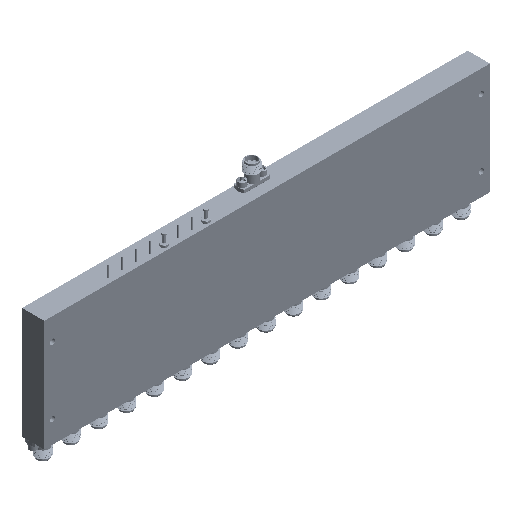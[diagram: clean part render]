
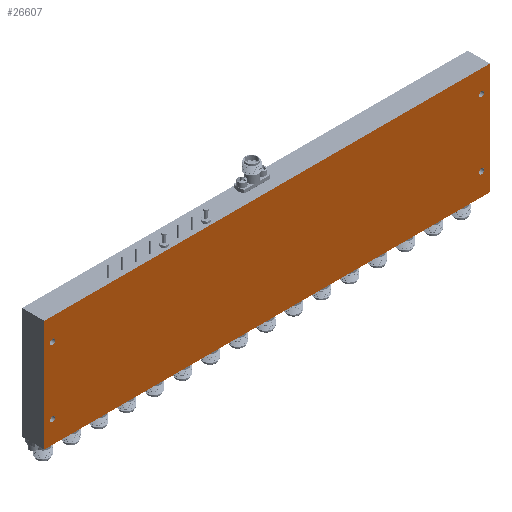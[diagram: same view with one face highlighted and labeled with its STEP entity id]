
A CAD part, isometric view. The second image highlights one B-rep face of the part: STEP entity #26607.
In plain terms, the highlighted planar face has unit normal (0, -1, 0).
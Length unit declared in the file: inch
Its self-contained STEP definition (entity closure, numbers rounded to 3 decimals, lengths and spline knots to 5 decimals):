
#1929 = ORIENTED_EDGE ( 'NONE', *, *, #43759, .F. ) ;
#2658 = DIRECTION ( 'NONE',  ( 0., 0., 1. ) ) ;
#3712 = EDGE_CURVE ( 'NONE', #134942, #134942, #106417, .T. ) ;
#4581 = EDGE_CURVE ( 'NONE', #122072, #107072, #37170, .T. ) ;
#9015 = LINE ( 'NONE', #35027, #26953 ) ;
#9782 = CIRCLE ( 'NONE', #111783, 0.04687 ) ;
#11960 = CARTESIAN_POINT ( 'NONE',  ( -4., -0.4, -1. ) ) ;
#14587 = CARTESIAN_POINT ( 'NONE',  ( -3.85, -0.4, 0.64688 ) ) ;
#15211 = EDGE_CURVE ( 'NONE', #115463, #115463, #78692, .T. ) ;
#15234 = ORIENTED_EDGE ( 'NONE', *, *, #46497, .F. ) ;
#15654 = CARTESIAN_POINT ( 'NONE',  ( 3.85, -0.4, 0.64688 ) ) ;
#19646 = AXIS2_PLACEMENT_3D ( 'NONE', #55953, #69391, #130803 ) ;
#19692 = PLANE ( 'NONE',  #51488 ) ;
#19778 = CIRCLE ( 'NONE', #68169, 0.04688 ) ;
#22486 = EDGE_LOOP ( 'NONE', ( #121211 ) ) ;
#23758 = DIRECTION ( 'NONE',  ( 0., 0., 1. ) ) ;
#26403 = CARTESIAN_POINT ( 'NONE',  ( -4., -0.4, 1. ) ) ;
#26607 = ADVANCED_FACE ( 'NONE', ( #46594, #48251, #71025, #99522, #59226 ), #19692, .F. ) ;
#26953 = VECTOR ( 'NONE', #62844, 39.37008 ) ;
#29810 = ORIENTED_EDGE ( 'NONE', *, *, #157689, .T. ) ;
#35027 = CARTESIAN_POINT ( 'NONE',  ( 4., -0.4, -1. ) ) ;
#36156 = VERTEX_POINT ( 'NONE', #135850 ) ;
#37170 = LINE ( 'NONE', #11960, #80889 ) ;
#37682 = LINE ( 'NONE', #89015, #129376 ) ;
#38606 = ORIENTED_EDGE ( 'NONE', *, *, #3712, .T. ) ;
#39170 = LINE ( 'NONE', #26403, #112762 ) ;
#42190 = CARTESIAN_POINT ( 'NONE',  ( 3.85, -0.4, 0.6 ) ) ;
#43759 = EDGE_CURVE ( 'NONE', #142644, #36156, #9015, .T. ) ;
#45961 = DIRECTION ( 'NONE',  ( 0., 1., 0. ) ) ;
#46497 = EDGE_CURVE ( 'NONE', #107072, #142644, #39170, .T. ) ;
#46594 = FACE_BOUND ( 'NONE', #117152, .T. ) ;
#48251 = FACE_BOUND ( 'NONE', #22486, .T. ) ;
#48980 = DIRECTION ( 'NONE',  ( 0., 0., 1. ) ) ;
#51488 = AXIS2_PLACEMENT_3D ( 'NONE', #116255, #152353, #23758 ) ;
#52005 = DIRECTION ( 'NONE',  ( -1., 0., 0. ) ) ;
#55953 = CARTESIAN_POINT ( 'NONE',  ( -3.85, -0.4, 0.6 ) ) ;
#59226 = FACE_OUTER_BOUND ( 'NONE', #112386, .T. ) ;
#62844 = DIRECTION ( 'NONE',  ( 0., 0., -1. ) ) ;
#66789 = CARTESIAN_POINT ( 'NONE',  ( -4., -0.4, 1. ) ) ;
#68169 = AXIS2_PLACEMENT_3D ( 'NONE', #93957, #45961, #145153 ) ;
#69391 = DIRECTION ( 'NONE',  ( 0., 1., 0. ) ) ;
#71025 = FACE_BOUND ( 'NONE', #164211, .T. ) ;
#78692 = CIRCLE ( 'NONE', #19646, 0.04687 ) ;
#80889 = VECTOR ( 'NONE', #48980, 39.37008 ) ;
#84912 = AXIS2_PLACEMENT_3D ( 'NONE', #126859, #89949, #153653 ) ;
#85383 = CARTESIAN_POINT ( 'NONE',  ( 3.85, -0.4, -0.55312 ) ) ;
#89015 = CARTESIAN_POINT ( 'NONE',  ( -4., -0.4, -1. ) ) ;
#89949 = DIRECTION ( 'NONE',  ( 0., 1., 0. ) ) ;
#93957 = CARTESIAN_POINT ( 'NONE',  ( 3.85, -0.4, -0.6 ) ) ;
#99522 = FACE_BOUND ( 'NONE', #127648, .T. ) ;
#99559 = CARTESIAN_POINT ( 'NONE',  ( 4., -0.4, 1. ) ) ;
#106417 = CIRCLE ( 'NONE', #84912, 0.04688 ) ;
#107072 = VERTEX_POINT ( 'NONE', #66789 ) ;
#109005 = VERTEX_POINT ( 'NONE', #85383 ) ;
#109613 = CARTESIAN_POINT ( 'NONE',  ( -4., -0.4, -1. ) ) ;
#111783 = AXIS2_PLACEMENT_3D ( 'NONE', #42190, #145502, #2658 ) ;
#112386 = EDGE_LOOP ( 'NONE', ( #134553, #134429, #1929, #15234 ) ) ;
#112762 = VECTOR ( 'NONE', #130753, 39.37008 ) ;
#115463 = VERTEX_POINT ( 'NONE', #14587 ) ;
#116255 = CARTESIAN_POINT ( 'NONE',  ( 0., -0.4, 0. ) ) ;
#117152 = EDGE_LOOP ( 'NONE', ( #38606 ) ) ;
#121211 = ORIENTED_EDGE ( 'NONE', *, *, #164544, .T. ) ;
#122072 = VERTEX_POINT ( 'NONE', #109613 ) ;
#126859 = CARTESIAN_POINT ( 'NONE',  ( -3.85, -0.4, -0.6 ) ) ;
#127648 = EDGE_LOOP ( 'NONE', ( #149274 ) ) ;
#129376 = VECTOR ( 'NONE', #52005, 39.37008 ) ;
#130753 = DIRECTION ( 'NONE',  ( 1., 0., 0. ) ) ;
#130803 = DIRECTION ( 'NONE',  ( 0., 0., 1. ) ) ;
#132529 = VERTEX_POINT ( 'NONE', #15654 ) ;
#134429 = ORIENTED_EDGE ( 'NONE', *, *, #144827, .F. ) ;
#134553 = ORIENTED_EDGE ( 'NONE', *, *, #4581, .F. ) ;
#134942 = VERTEX_POINT ( 'NONE', #161726 ) ;
#135850 = CARTESIAN_POINT ( 'NONE',  ( 4., -0.4, -1. ) ) ;
#142644 = VERTEX_POINT ( 'NONE', #99559 ) ;
#144827 = EDGE_CURVE ( 'NONE', #36156, #122072, #37682, .T. ) ;
#145153 = DIRECTION ( 'NONE',  ( 0., 0., 1. ) ) ;
#145502 = DIRECTION ( 'NONE',  ( 0., 1., 0. ) ) ;
#149274 = ORIENTED_EDGE ( 'NONE', *, *, #15211, .T. ) ;
#152353 = DIRECTION ( 'NONE',  ( 0., 1., 0. ) ) ;
#153653 = DIRECTION ( 'NONE',  ( 0., 0., 1. ) ) ;
#157689 = EDGE_CURVE ( 'NONE', #132529, #132529, #9782, .T. ) ;
#161726 = CARTESIAN_POINT ( 'NONE',  ( -3.85, -0.4, -0.55312 ) ) ;
#164211 = EDGE_LOOP ( 'NONE', ( #29810 ) ) ;
#164544 = EDGE_CURVE ( 'NONE', #109005, #109005, #19778, .T. ) ;
